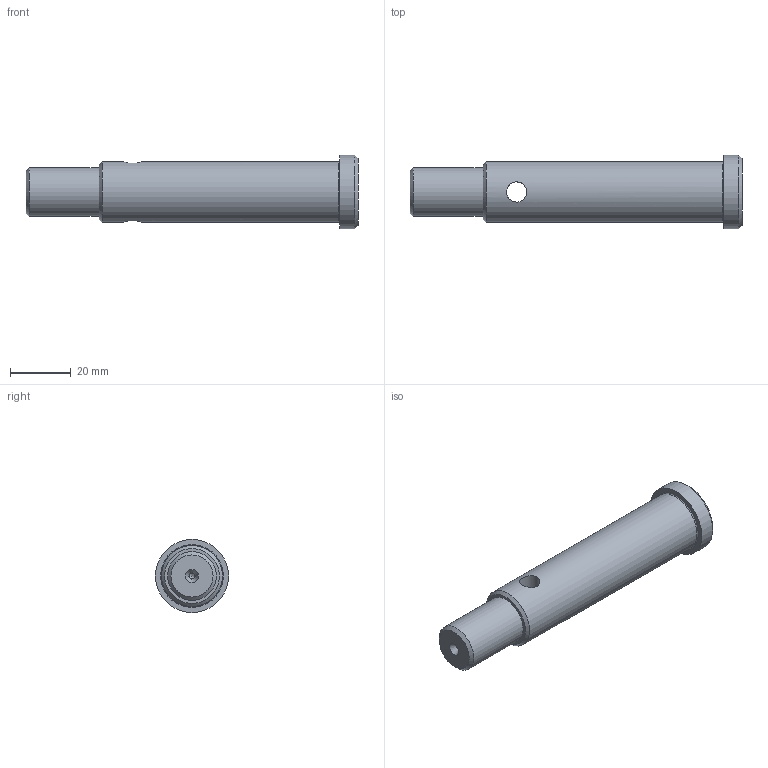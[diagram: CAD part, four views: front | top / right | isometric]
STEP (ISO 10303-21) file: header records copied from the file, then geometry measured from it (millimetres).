
FILE_DESCRIPTION(/* description */ (''),/* implementation_level */ '2;1');
FILE_NAME(/* name */ '',/* time_stamp */ '2025-01-09T17:58:15+09:00',/* author */ ('jhkim'),/* organization */ (''),/* preprocessor_version */ 'ST-DEVELOPER v20',/* originating_system */ 'Autodesk Inventor 2025',/* authorisation */ '');
FILE_SCHEMA (('AUTOMOTIVE_DESIGN { 1 0 10303 214 3 1 1 }'));
Length unit declared in the file: millimetre
Products named in the file (1): 축
Bounding box: 109 x 24 x 24 mm (x, y, z)
Volume: 31555.5 mm3; surface area: 7766.3 mm2
Topology: 1 solids, 1 shells, 15 faces, 31 edges, 20 vertices
Faces by surface type: cone 5, cylinder 5, plane 4, torus 1
Full cylindrical faces by diameter (mm): 2 x1, 6.647 x1, 16 x1, 20 x1, 24 x1
Entity records: 508 total; most frequent: CARTESIAN_POINT 135, DIRECTION 74, ORIENTED_EDGE 60, AXIS2_PLACEMENT_3D 32, EDGE_CURVE 30, EDGE_LOOP 20, VERTEX_POINT 20, CIRCLE 16
